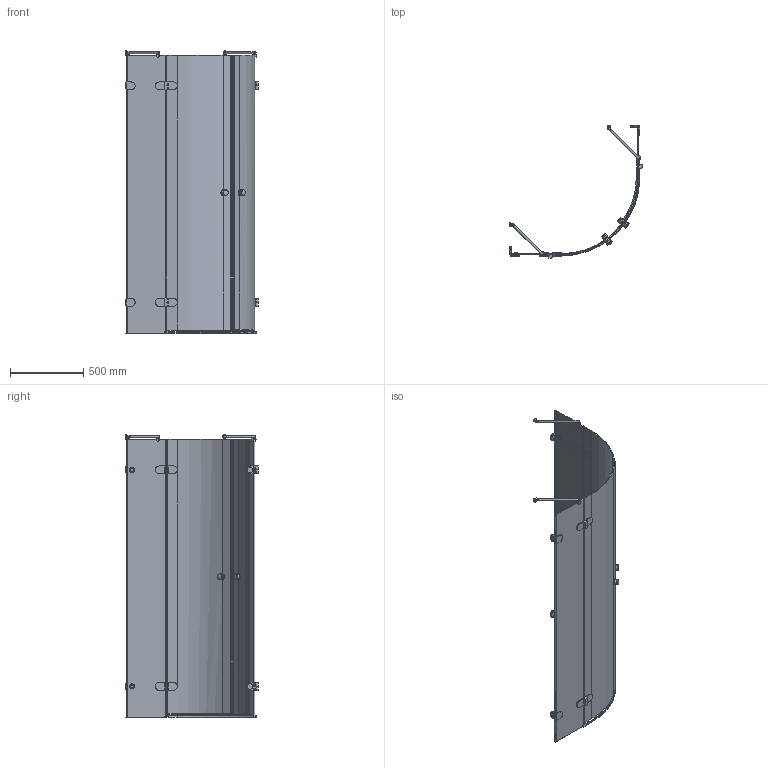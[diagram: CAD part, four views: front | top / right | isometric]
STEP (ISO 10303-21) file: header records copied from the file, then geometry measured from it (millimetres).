
FILE_DESCRIPTION(/* description */ (''),/* implementation_level */ '2;1');
FILE_NAME(/* name */ 'E:\Работа\Сергей\Душевые кабинки\! Работа\777\LUX MELIORI GK-002\LUX MELIORI GK-002-3D.stp',/* time_stamp */ '2018-04-19T19:44:48+03:00',/* author */ ('PC'),/* organization */ (''),/* preprocessor_version */ 'ST-DEVELOPER v15.2',/* originating_system */ 'Autodesk Inventor 2014',/* authorisation */ '');
FILE_SCHEMA (('AUTOMOTIVE_DESIGN { 1 0 10303 214 3 1 1 }'));
Length unit declared in the file: millimetre
Products named in the file (1): LUX MELIORI GK-002-3D
Bounding box: 904.98 x 904.98 x 1931.5 mm (x, y, z)
Volume: 18635502.5 mm3; surface area: 6360710.4 mm2
Topology: 7 solids, 7 shells, 749 faces, 1991 edges, 1292 vertices
Faces by surface type: plane 424, cylinder 241, torus 49, sphere 14, bspline 14, cone 7
Full cylindrical faces by diameter (mm): 12 x2, 15 x2, 20 x4, 26 x2, 30 x4, 35 x4, 38 x8, 40 x4
Entity records: 24948 total; most frequent: CARTESIAN_POINT 5533, DIRECTION 3910, ORIENTED_EDGE 3826, EDGE_CURVE 1913, AXIS2_PLACEMENT_3D 1348, VERTEX_POINT 1268, LINE 1214, VECTOR 1214
